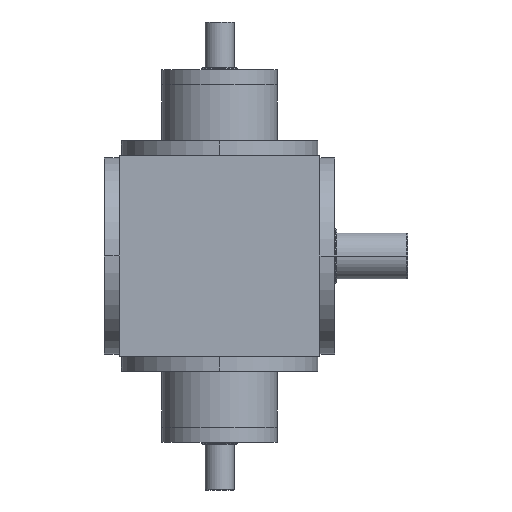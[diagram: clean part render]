
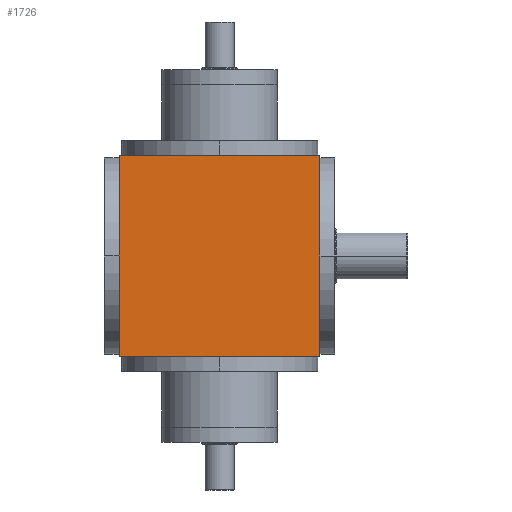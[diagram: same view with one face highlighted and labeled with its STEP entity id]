
A CAD part, front view. The second image highlights one B-rep face of the part: STEP entity #1726.
In plain terms, the highlighted planar face has unit normal (0, -1, 0).
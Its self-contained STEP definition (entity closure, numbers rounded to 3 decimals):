
#438 = EDGE_CURVE ( 'NONE', #11508, #8568, #21015, .T. ) ;
#1149 = CARTESIAN_POINT ( 'NONE',  ( 119.9, -120., 120. ) ) ;
#1337 = CARTESIAN_POINT ( 'NONE',  ( -119.9, -120., 120. ) ) ;
#1448 = VERTEX_POINT ( 'NONE', #5306 ) ;
#1726 = ADVANCED_FACE ( 'NONE', ( #6874 ), #18161, .F. ) ;
#2411 = ORIENTED_EDGE ( 'NONE', *, *, #15874, .T. ) ;
#3339 = EDGE_CURVE ( 'NONE', #8568, #1448, #14004, .T. ) ;
#4946 = DIRECTION ( 'NONE',  ( 0., 1., 0. ) ) ;
#5306 = CARTESIAN_POINT ( 'NONE',  ( 119.9, -120., 119.9 ) ) ;
#5708 = VECTOR ( 'NONE', #20742, 1000. ) ;
#6567 = EDGE_CURVE ( 'NONE', #6773, #11508, #20959, .T. ) ;
#6773 = VERTEX_POINT ( 'NONE', #21557 ) ;
#6874 = FACE_OUTER_BOUND ( 'NONE', #7688, .T. ) ;
#7688 = EDGE_LOOP ( 'NONE', ( #19791, #12811, #2411, #24515 ) ) ;
#8202 = VECTOR ( 'NONE', #19370, 1000. ) ;
#8568 = VERTEX_POINT ( 'NONE', #9223 ) ;
#8941 = VECTOR ( 'NONE', #16394, 1000. ) ;
#9223 = CARTESIAN_POINT ( 'NONE',  ( 119.9, -120., -119.9 ) ) ;
#11461 = VECTOR ( 'NONE', #21757, 1000. ) ;
#11508 = VERTEX_POINT ( 'NONE', #22604 ) ;
#12811 = ORIENTED_EDGE ( 'NONE', *, *, #3339, .T. ) ;
#14004 = LINE ( 'NONE', #1149, #8941 ) ;
#15874 = EDGE_CURVE ( 'NONE', #1448, #6773, #21024, .T. ) ;
#16394 = DIRECTION ( 'NONE',  ( 0., 0., 1. ) ) ;
#17192 = CARTESIAN_POINT ( 'NONE',  ( -120., -120., 119.9 ) ) ;
#18161 = PLANE ( 'NONE',  #19986 ) ;
#18335 = DIRECTION ( 'NONE',  ( 0., 0., 1. ) ) ;
#19370 = DIRECTION ( 'NONE',  ( -1., 0., 0. ) ) ;
#19791 = ORIENTED_EDGE ( 'NONE', *, *, #438, .T. ) ;
#19986 = AXIS2_PLACEMENT_3D ( 'NONE', #20241, #4946, #18335 ) ;
#20241 = CARTESIAN_POINT ( 'NONE',  ( 120., -120., 120. ) ) ;
#20742 = DIRECTION ( 'NONE',  ( 0., 0., -1. ) ) ;
#20959 = LINE ( 'NONE', #1337, #5708 ) ;
#21015 = LINE ( 'NONE', #21671, #11461 ) ;
#21024 = LINE ( 'NONE', #17192, #8202 ) ;
#21557 = CARTESIAN_POINT ( 'NONE',  ( -119.9, -120., 119.9 ) ) ;
#21671 = CARTESIAN_POINT ( 'NONE',  ( 120., -120., -119.9 ) ) ;
#21757 = DIRECTION ( 'NONE',  ( 1., 0., 0. ) ) ;
#22604 = CARTESIAN_POINT ( 'NONE',  ( -119.9, -120., -119.9 ) ) ;
#24515 = ORIENTED_EDGE ( 'NONE', *, *, #6567, .T. ) ;
